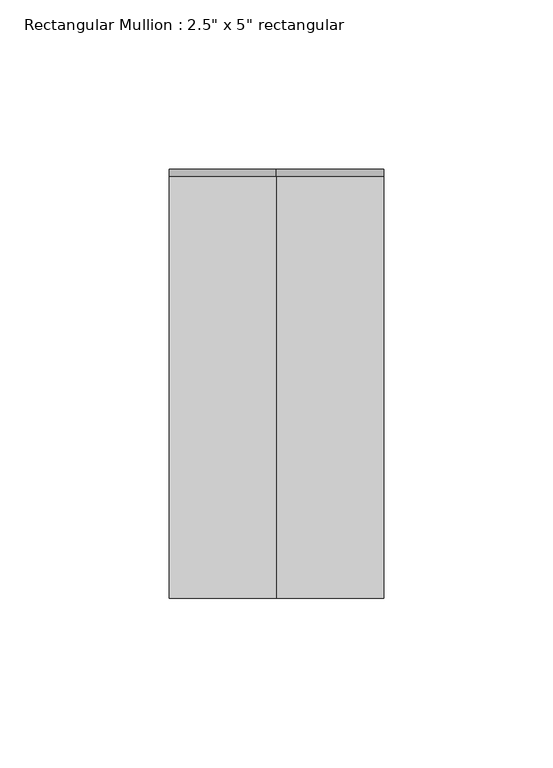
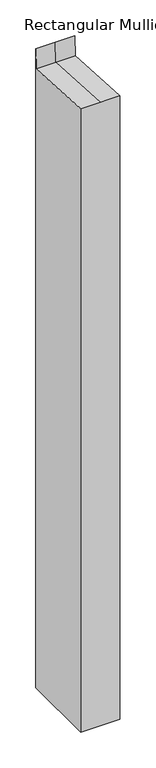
"""IFC4 building model written with IfcOpenShell, lengths in millimetres: member geometry."""

from ifc_helpers import new_model, si_unit, origin, place, context, project, spatial, faceted_brep, source, transform, mapped, element, save


def member_ae6f7b70(model_context):
    return source(origin(), model_context, "Body", "Brep", [
        faceted_brep([(31.75, 63.5, -1066.0825096), (31.75, -63.5, -1066.0825096), (-31.75, -63.5, -1066.0825096), (-31.75, 63.5, -1066.0825096), (-31.75, 63.5, 29.7655912), (0.0, 63.5, 29.7655912), (31.75, 63.5, 29.7655912), (-31.75, -63.5, 3.9106228), (-31.75, 61.3936206, -3.9029921), (31.75, -63.5, 3.9106228), (0.0, -63.5, 3.9106228), (31.75, 61.3936206, -3.9029921), (0.0, 61.3936206, -3.9029921)], [[[0, 1, 2, 3]], [[4, 5, 6, 0, 3]], [[7, 8, 4, 3, 2]], [[9, 10, 7, 2, 1]], [[6, 11, 9, 1, 0]], [[6, 5, 12, 11]], [[5, 4, 8, 12]], [[8, 7, 10, 12]], [[10, 9, 11, 12]]]),
    ])


if __name__ == "__main__":
    model = new_model("IFC4")
    model_context = context("Model", 3, world=origin())
    ifc_project = project(units=[si_unit("LENGTHUNIT", "METRE", prefix="MILLI")], contexts=[model_context])
    site = spatial("IfcSite", under=ifc_project)
    building = spatial("IfcBuilding", under=site)
    placement = place(None, origin())
    member_shape = member_ae6f7b70(model_context)
    element("IfcMember", 1, ObjectType="Rectangular Mullion : 2.5\" x 5\" rectangular", at=placement, inside=building, context=model_context, shape_type="MappedRepresentation", body=[
        mapped(member_shape, transform((0.0, 0.0, 0.0), x_axis=(1.0, 0.0, 0.0), y_axis=(0.0, 1.0, 0.0), z_axis=(0.0, 0.0, 1.0))),
    ])
    save(model, "model.ifc")
